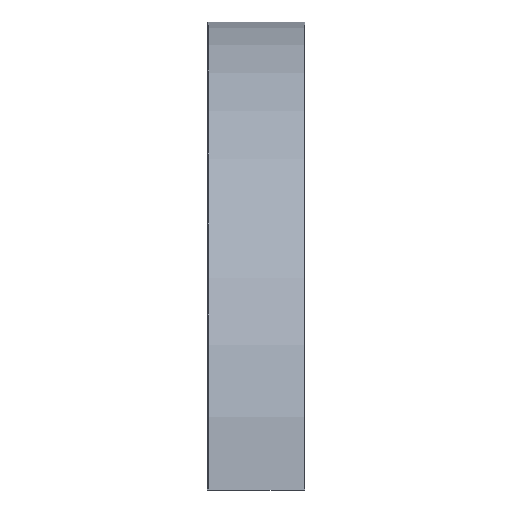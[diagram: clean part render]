
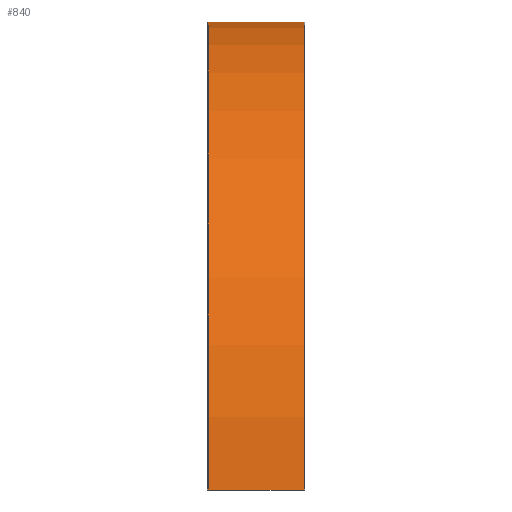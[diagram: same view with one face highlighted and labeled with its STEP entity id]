
A CAD part, left-side view. The second image highlights one B-rep face of the part: STEP entity #840.
In plain terms, the highlighted cylindrical face has radius 386 mm (diameter 772 mm), a partial arc.
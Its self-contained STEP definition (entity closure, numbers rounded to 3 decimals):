
#199 = EDGE_CURVE ( 'NONE', #875, #729, #1227, .T. ) ;
#290 = CARTESIAN_POINT ( 'NONE',  ( 362.5, 79.5, 0. ) ) ;
#300 = DIRECTION ( 'NONE',  ( -1., 0., 0. ) ) ;
#310 = CARTESIAN_POINT ( 'NONE',  ( -23.5, 0.5, 0. ) ) ;
#324 = CARTESIAN_POINT ( 'NONE',  ( 362.5, 0.5, 0. ) ) ;
#402 = CARTESIAN_POINT ( 'NONE',  ( 362.5, 79.5, 386. ) ) ;
#456 = VERTEX_POINT ( 'NONE', #1231 ) ;
#487 = CYLINDRICAL_SURFACE ( 'NONE', #1513, 386. ) ;
#584 = FACE_OUTER_BOUND ( 'NONE', #817, .T. ) ;
#664 = CARTESIAN_POINT ( 'NONE',  ( 362.5, 0., 0. ) ) ;
#729 = VERTEX_POINT ( 'NONE', #402 ) ;
#749 = CARTESIAN_POINT ( 'NONE',  ( 362.5, 79.5, 386. ) ) ;
#817 = EDGE_LOOP ( 'NONE', ( #1286, #1191, #1349, #953 ) ) ;
#827 = EDGE_CURVE ( 'NONE', #1586, #456, #930, .T. ) ;
#829 = VECTOR ( 'NONE', #1253, 1000. ) ;
#840 = ADVANCED_FACE ( 'NONE', ( #584 ), #487, .T. ) ;
#875 = VERTEX_POINT ( 'NONE', #1483 ) ;
#927 = DIRECTION ( 'NONE',  ( -1., 0., 0. ) ) ;
#930 = CIRCLE ( 'NONE', #1348, 386. ) ;
#941 = DIRECTION ( 'NONE',  ( 0., 0., 1. ) ) ;
#951 = LINE ( 'NONE', #1617, #1024 ) ;
#953 = ORIENTED_EDGE ( 'NONE', *, *, #970, .T. ) ;
#970 = EDGE_CURVE ( 'NONE', #875, #1586, #951, .T. ) ;
#1024 = VECTOR ( 'NONE', #1095, 1000. ) ;
#1061 = DIRECTION ( 'NONE',  ( 0., 1., 0. ) ) ;
#1095 = DIRECTION ( 'NONE',  ( 0., -1., 0. ) ) ;
#1154 = AXIS2_PLACEMENT_3D ( 'NONE', #290, #1556, #927 ) ;
#1191 = ORIENTED_EDGE ( 'NONE', *, *, #1339, .F. ) ;
#1227 = CIRCLE ( 'NONE', #1154, 386. ) ;
#1231 = CARTESIAN_POINT ( 'NONE',  ( 362.5, 0.5, 386. ) ) ;
#1253 = DIRECTION ( 'NONE',  ( 0., -1., 0. ) ) ;
#1286 = ORIENTED_EDGE ( 'NONE', *, *, #827, .T. ) ;
#1339 = EDGE_CURVE ( 'NONE', #729, #456, #1484, .T. ) ;
#1348 = AXIS2_PLACEMENT_3D ( 'NONE', #324, #1061, #300 ) ;
#1349 = ORIENTED_EDGE ( 'NONE', *, *, #199, .F. ) ;
#1442 = DIRECTION ( 'NONE',  ( 0., 1., 0. ) ) ;
#1483 = CARTESIAN_POINT ( 'NONE',  ( -23.5, 79.5, 0. ) ) ;
#1484 = LINE ( 'NONE', #749, #829 ) ;
#1513 = AXIS2_PLACEMENT_3D ( 'NONE', #664, #1442, #941 ) ;
#1556 = DIRECTION ( 'NONE',  ( 0., 1., 0. ) ) ;
#1586 = VERTEX_POINT ( 'NONE', #310 ) ;
#1617 = CARTESIAN_POINT ( 'NONE',  ( -23.5, 79.5, 0. ) ) ;
